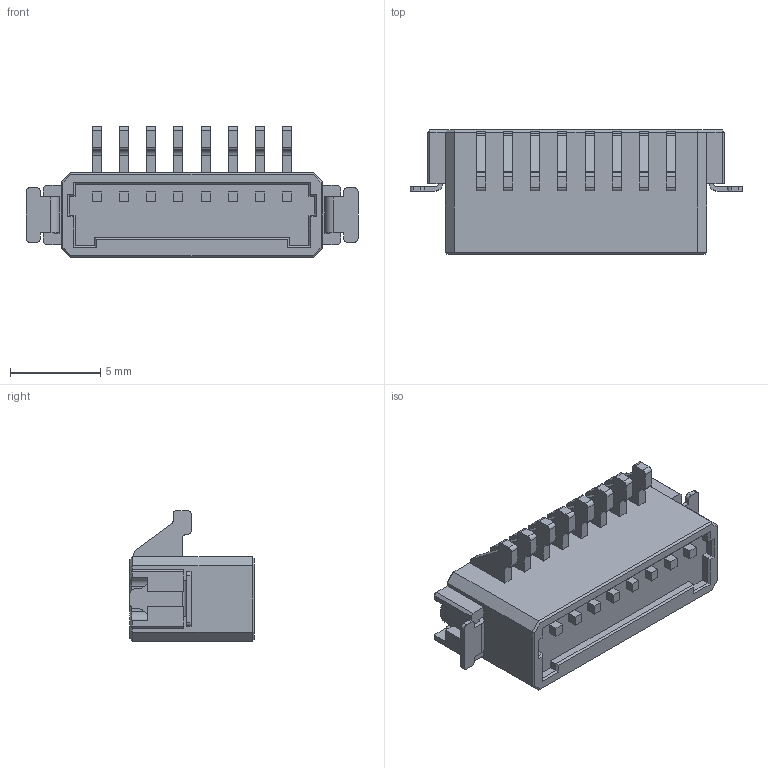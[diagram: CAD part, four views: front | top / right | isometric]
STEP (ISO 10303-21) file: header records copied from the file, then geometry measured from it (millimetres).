
FILE_DESCRIPTION (( 'STEP AP203' ), '1' );
FILE_NAME ('XB-L044AFV-08-F2MB-R-W.STEP', '2023-07-09T13:37:19', ( '' ), ( '' ), 'SwSTEP 2.0', 'SolidWorks 2019', '' );
FILE_SCHEMA (( 'CONFIG_CONTROL_DESIGN' ));
Length unit declared in the file: millimetre
Products named in the file (1): XB-L044AFV-08-F2MB-R-W
Bounding box: 18.4 x 6.9 x 7.25 mm (x, y, z)
Volume: 475.8 mm3; surface area: 922.6 mm2
Topology: 19 solids, 19 shells, 700 faces, 1860 edges, 1214 vertices
Faces by surface type: plane 579, cylinder 117, cone 4
Entity records: 21471 total; most frequent: CARTESIAN_POINT 3775, ORIENTED_EDGE 3720, DIRECTION 3500, EDGE_CURVE 1860, VECTOR 1622, LINE 1622, VERTEX_POINT 1214, AXIS2_PLACEMENT_3D 939
